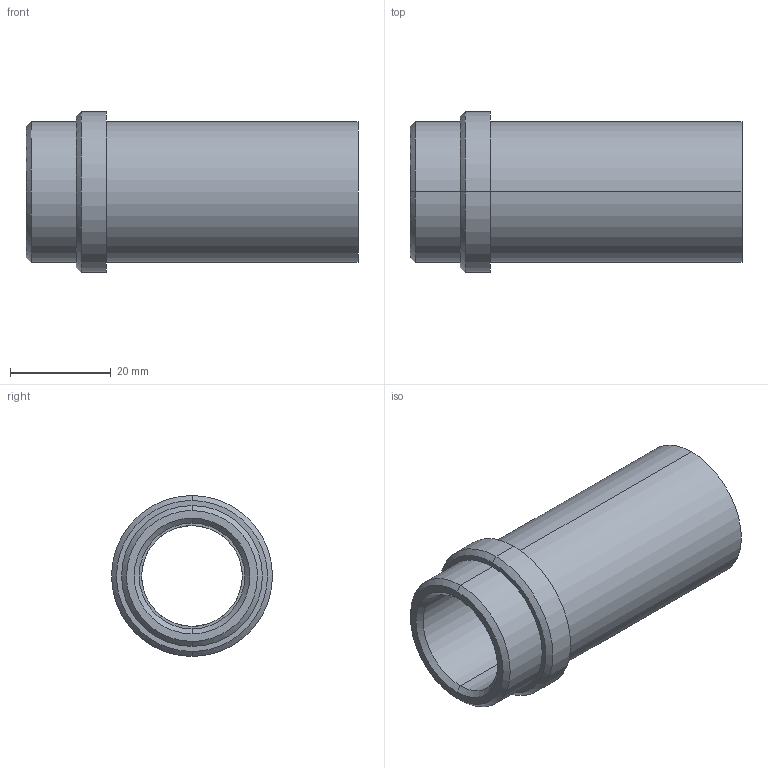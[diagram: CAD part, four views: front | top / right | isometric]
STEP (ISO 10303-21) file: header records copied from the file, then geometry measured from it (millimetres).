
FILE_DESCRIPTION(('CATIA V5 STEP Exchange'),'2;1');
FILE_NAME('C:\Users\Utente\Desktop\IO LAVORO\3D X SITO CF\X SITO\PLASTICA\358\358-20x66.stp','2021-04-08T12:45:18+00:00',('none'),('none'),'CATIA Version 5 Release 20 GA (IN-10)','CATIA V5 STEP AP203','none');
FILE_SCHEMA(('CONFIG_CONTROL_DESIGN'));
Length unit declared in the file: millimetre
Products named in the file (1): 358-20X66
Bounding box: 66 x 32 x 32 mm (x, y, z)
Volume: 20016.3 mm3; surface area: 10887.3 mm2
Topology: 1 solids, 1 shells, 23 faces, 74 edges, 56 vertices
Faces by surface type: cylinder 10, cone 6, plane 5, torus 2
Entity records: 1066 total; most frequent: CARTESIAN_POINT 378, ORIENTED_EDGE 148, DIRECTION 104, EDGE_CURVE 74, AXIS2_PLACEMENT_3D 66, VERTEX_POINT 56, CIRCLE 42, EDGE_LOOP 28
